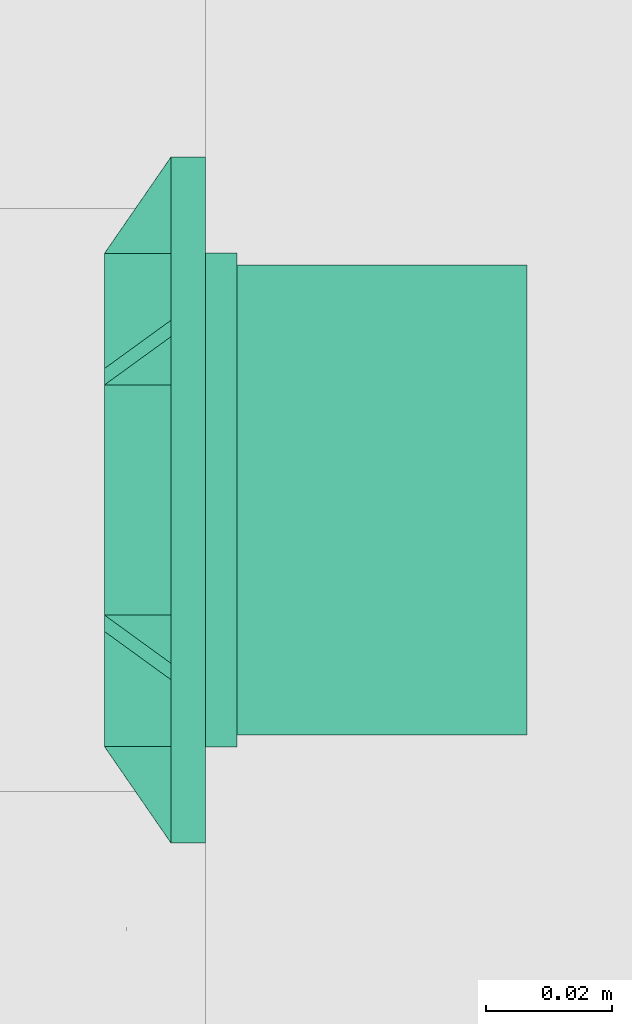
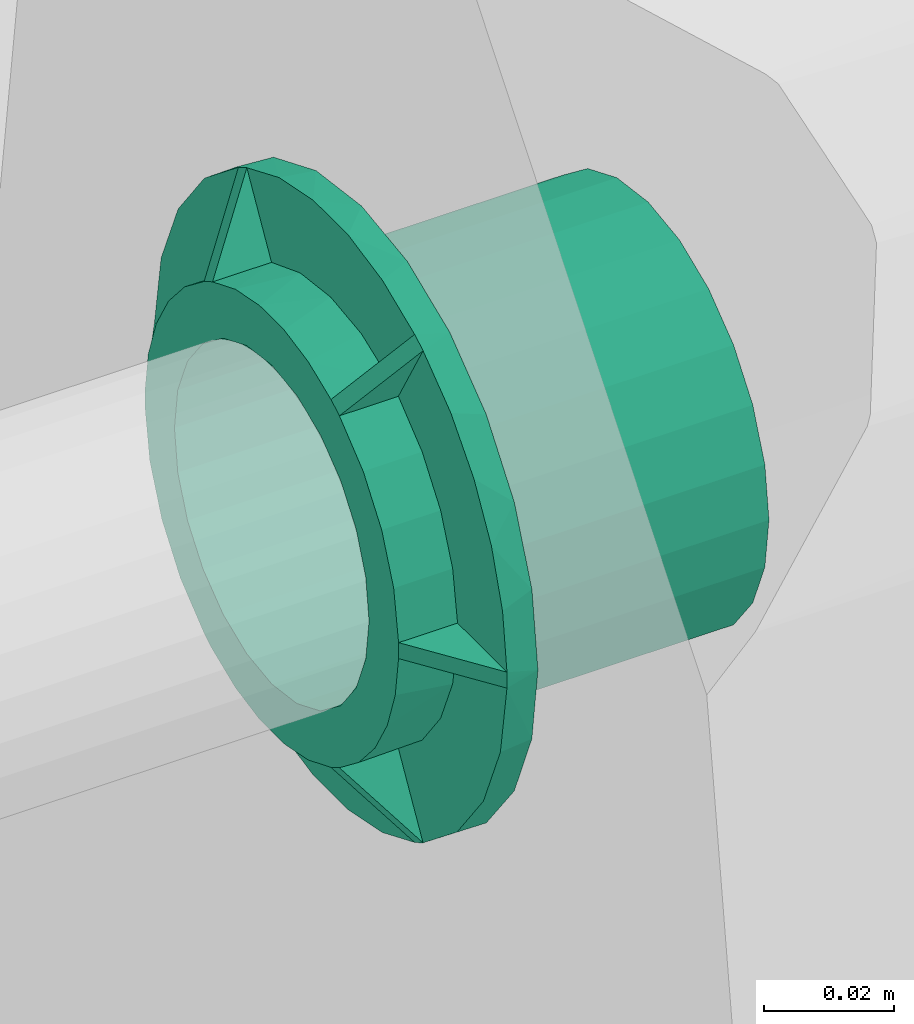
# One storey, part 49 of 166: 1 flow fitting.
"""IFC2X3 building model written with IfcOpenShell, lengths in metres."""

from ifc_helpers import new_model, entity, si_unit, converted_unit, direction, frame, origin, place, context, subcontext, project, spatial, faceted_brep, source, transform, mapped, material, type_object, type_shapes, element, save


model = new_model("IFC2X3")

# Units and contexts
model_context = context("Model", 3, precision=1e-05, world=origin(), true_north=direction((6.123233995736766e-17, 1.0)))
body_context = subcontext(model_context, "Body", "Model", "MODEL_VIEW")
ifc_project = project(units=[si_unit("LENGTHUNIT", "METRE"), converted_unit("PLANEANGLEUNIT", "DEGREE", entity("IfcPlaneAngleMeasure", 0.017453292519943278), si_unit("PLANEANGLEUNIT", "RADIAN"), dimensions=[0, 0, 0, 0, 0, 0, 0]), si_unit("AREAUNIT", "SQUARE_METRE")], contexts=[model_context])

# Site, building, storey
site_placement = place(None, origin())
site = spatial("IfcSite", under=ifc_project, at=site_placement, Name="Default", CompositionType="ELEMENT")
building_placement = place(site_placement, origin())
building = spatial("IfcBuilding", under=site, at=building_placement, Name="CASA DE ACOLHIDA PARA IDOSOS", CompositionType="ELEMENT")
storey_placement = place(building_placement, frame((0.0, 0.0, -1.7499999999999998)))
storey = spatial("IfcBuildingStorey", under=building, at=storey_placement, Name="IMPLANTAÇÃO DRENAGEM", CompositionType="ELEMENT", Elevation=-1.7499999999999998)

# Flow fitting
ifc_material = material(Name="Fortlev - PVC Marrom")
pipe_fitting_type = type_object("IfcPipeFittingType", Name="Adaptador Soldavel com Anel para CxDagua - Fortlev:Standard", PredefinedType="NOTDEFINED", material=ifc_material)
shared_shape = source(origin(), body_context, "Body", "Brep", [
    faceted_brep([(0.010500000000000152, -0.049522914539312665, 0.022392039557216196), (0.010500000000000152, -0.044138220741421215, 0.03171340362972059), (0.010500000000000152, -0.03702385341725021, 0.03978890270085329), (0.010500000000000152, -0.028463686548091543, 0.046300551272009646), (0.010500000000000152, -0.020847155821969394, 0.033108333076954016), (0.010500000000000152, -0.02819089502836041, 0.027130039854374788), (0.010500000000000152, -0.0338832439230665, 0.01956249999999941), (0.010500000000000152, -0.03759075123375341, 0.01084901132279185), (0.010500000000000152, -0.039096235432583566, 0.001500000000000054), (0.010500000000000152, -0.05432929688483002, 0.0015000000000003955), (0.010500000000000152, -0.05296506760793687, 0.01219114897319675), (0.010500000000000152, 0.03909623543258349, 0.0015000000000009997), (0.010500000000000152, 0.03759075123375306, 0.010849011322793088), (0.010500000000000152, 0.03388324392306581, 0.019562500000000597), (0.010500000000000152, 0.028190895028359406, 0.02713003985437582), (0.010500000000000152, 0.020847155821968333, 0.033108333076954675), (0.010500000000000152, 0.028463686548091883, 0.046300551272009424), (0.010500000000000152, 0.0389559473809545, 0.037899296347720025), (0.010500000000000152, 0.04706833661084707, 0.027175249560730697), (0.010500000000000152, 0.0522995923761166, 0.014787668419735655), (0.010500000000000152, 0.054329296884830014, 0.0015000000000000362), (0.010500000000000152, 0.01592792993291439, 0.05196367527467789), (0.010500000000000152, 0.025865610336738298, 0.04780055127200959), (0.010500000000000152, 0.01824907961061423, 0.034608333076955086), (0.010500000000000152, 0.009399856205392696, 0.037979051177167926), (0.010500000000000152, 0.0, 0.039125), (0.010500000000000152, -0.009399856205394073, 0.037979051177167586), (0.010500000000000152, -0.018249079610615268, 0.03460833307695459), (0.010500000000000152, -0.025865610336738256, 0.047800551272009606), (0.010500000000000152, -0.015940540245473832, 0.051959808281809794), (0.010500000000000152, -0.005390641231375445, 0.054082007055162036), (0.010500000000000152, 0.00537307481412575, 0.05408375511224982), (0.010500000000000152, 0.028190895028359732, -0.02713003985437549), (0.010500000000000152, 0.03388324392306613, -0.019562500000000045), (0.010500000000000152, 0.03759075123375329, -0.010849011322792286), (0.010500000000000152, 0.03909623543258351, -0.0014999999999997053), (0.010500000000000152, 0.054329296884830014, -0.0014999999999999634), (0.010500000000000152, 0.05296506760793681, -0.012191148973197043), (0.010500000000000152, 0.04952291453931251, -0.022392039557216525), (0.010500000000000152, 0.04413822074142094, -0.03171340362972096), (0.010500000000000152, 0.03702385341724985, -0.03978890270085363), (0.010500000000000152, 0.028463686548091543, -0.04630055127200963), (0.010500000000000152, 0.020847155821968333, -0.03310833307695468), (0.010500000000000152, -0.03895594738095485, -0.03789929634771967), (0.010500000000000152, -0.04706833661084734, -0.027175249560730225), (0.010500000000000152, -0.052299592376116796, -0.01478766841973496), (0.010500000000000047, -0.05432929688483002, -0.001499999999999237), (0.010500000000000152, -0.03909623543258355, -0.0014999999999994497), (0.010500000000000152, -0.03759075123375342, -0.01084901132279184), (0.010500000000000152, -0.03388324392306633, -0.0195624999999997), (0.010500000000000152, -0.028190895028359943, -0.027130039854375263), (0.010500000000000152, -0.020847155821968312, -0.0331083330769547), (0.010500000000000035, -0.028463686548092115, -0.04630055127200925), (0.010500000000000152, 0.005390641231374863, -0.05408200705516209), (0.010500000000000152, -0.005373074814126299, -0.05408375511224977), (0.010500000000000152, -0.015927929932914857, -0.05196367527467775), (0.010500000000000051, -0.025865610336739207, -0.04780055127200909), (0.0105, -0.01824907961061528, -0.03460833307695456), (0.010500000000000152, -0.009399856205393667, -0.03797905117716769), (0.010500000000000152, 0.0, -0.039125), (0.010500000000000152, 0.009399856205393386, -0.037979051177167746), (0.010500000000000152, 0.01824907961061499, -0.03460833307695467), (0.010500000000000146, 0.02586561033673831, -0.04780055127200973), (0.010500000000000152, 0.01594054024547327, -0.05195980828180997), (0.005249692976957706, -0.04671297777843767, -0.001499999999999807), (0.005250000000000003, -0.04673749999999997, 0.0), (0.0, -0.03911780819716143, -0.0007501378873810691), (0.0, -0.039096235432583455, -0.0014999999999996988), (0.010500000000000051, -0.054344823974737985, -0.0007500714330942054), (0.0, -0.03912499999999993, 0.0), (0.010500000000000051, -0.05435, 0.0), (0.0, 0.01122227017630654, -0.03748101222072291), (0.0, 0.018249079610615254, -0.03460833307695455), (0.0, 0.003788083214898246, -0.038941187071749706), (0.0, -0.003787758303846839, -0.0389412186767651), (0.0, -0.011221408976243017, -0.03748127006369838), (0.0, -0.018249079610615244, -0.03460833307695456), (0.0, 0.026847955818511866, 0.028459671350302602), (0.0, 0.020847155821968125, 0.033108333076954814), (0.0, 0.03183205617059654, 0.022748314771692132), (0.0, 0.03562128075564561, 0.01618301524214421), (0.0, 0.03807320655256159, 0.009010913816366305), (0.0, 0.039096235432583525, 0.0015000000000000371), (0.005249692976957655, -0.024655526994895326, -0.039704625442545), (0.0052496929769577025, -0.022057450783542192, -0.04120462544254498), (0.010500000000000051, -0.027175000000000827, -0.04706848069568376), (0.0, -0.019562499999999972, -0.033883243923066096), (0.0, -0.02084715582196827, -0.03310833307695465), (0.021000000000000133, 0.03779184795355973, -0.010126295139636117), (0.016000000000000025, 0.03779184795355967, -0.01012629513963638), (0.016000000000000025, 0.039124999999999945, 0.0), (0.021000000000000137, 0.03912499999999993, 0.0), (0.02100000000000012, 0.0338832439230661, -0.019562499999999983), (0.016000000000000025, 0.033883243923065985, -0.019562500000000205), (0.016000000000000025, 0.02766555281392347, -0.02766555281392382), (0.0210000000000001, 0.027665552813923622, -0.027665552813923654), (0.021000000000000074, 0.019562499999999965, -0.03388324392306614), (0.016000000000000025, 0.019562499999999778, -0.033883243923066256), (0.021000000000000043, 0.010126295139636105, -0.03779184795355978), (0.016000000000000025, 0.010126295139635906, -0.03779184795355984), (0.02100000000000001, 0.0, -0.039125), (0.016000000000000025, 0.0, -0.039125), (0.020999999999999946, -0.0195625, -0.0338832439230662), (0.016000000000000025, -0.019562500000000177, -0.03388324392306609), (0.01600000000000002, -0.010126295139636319, -0.037791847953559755), (0.020999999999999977, -0.010126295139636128, -0.03779184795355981), (0.02099999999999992, -0.027665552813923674, -0.027665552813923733), (0.016000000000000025, -0.027665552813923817, -0.027665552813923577), (0.016000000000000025, -0.033883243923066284, -0.019562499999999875), (0.0209999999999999, -0.03388324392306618, -0.019562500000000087), (0.020999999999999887, -0.03779184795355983, -0.010126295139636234), (0.016000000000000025, -0.03779184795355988, -0.010126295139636), (0.020999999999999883, -0.03912500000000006, 0.0), (0.016000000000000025, -0.03912500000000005, 0.0), (0.0, -0.02684795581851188, -0.02845967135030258), (0.0, -0.031832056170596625, -0.022748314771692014), (0.0, -0.0356212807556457, -0.01618301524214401), (0.0, -0.03807320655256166, -0.009010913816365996), (0.005249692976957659, 0.024655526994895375, 0.03970462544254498), (0.005249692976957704, 0.02205745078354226, 0.04120462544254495), (0.010500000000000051, 0.02717499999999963, 0.04706848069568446), (0.0, 0.019562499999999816, 0.033883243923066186), (0.0, 0.018249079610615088, 0.03460833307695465), (0.0, -0.011222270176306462, 0.037481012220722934), (0.0, -0.018249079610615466, 0.03460833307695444), (0.0, -0.003788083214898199, 0.038941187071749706), (0.0, 0.003787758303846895, 0.038941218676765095), (0.0, 0.011221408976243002, 0.037481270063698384), (0.0052496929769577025, 0.022057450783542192, -0.04120462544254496), (0.005249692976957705, 0.02465552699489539, -0.03970462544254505), (0.010500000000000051, 0.02717499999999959, -0.047068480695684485), (0.0, 0.01956249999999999, -0.03388324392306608), (0.0, 0.020847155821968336, -0.03310833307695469), (0.005249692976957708, 0.046712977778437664, 0.0014999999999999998), (0.005250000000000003, 0.04673749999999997, 0.0), (0.0, 0.03911780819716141, 0.0007501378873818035), (0.010500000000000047, 0.05434482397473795, 0.0007500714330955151), (0.0, 0.03912499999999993, 0.0), (0.010500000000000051, 0.05435, 0.0), (0.005249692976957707, -0.022057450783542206, 0.041204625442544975), (0.005249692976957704, -0.024655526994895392, 0.03970462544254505), (0.010500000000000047, -0.027175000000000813, 0.04706848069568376), (0.0, -0.01956250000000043, 0.03388324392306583), (0.0, -0.020847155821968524, 0.0331083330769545), (0.020999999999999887, -0.037791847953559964, 0.010126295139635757), (0.016000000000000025, -0.03779184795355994, 0.010126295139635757), (0.0209999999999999, -0.03388324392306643, 0.019562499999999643), (0.016000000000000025, -0.0338832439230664, 0.019562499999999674), (0.016000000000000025, -0.027665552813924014, 0.027665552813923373), (0.02099999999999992, -0.02766555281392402, 0.027665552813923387), (0.020999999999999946, -0.019562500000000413, 0.03388324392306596), (0.016000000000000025, -0.019562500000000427, 0.033883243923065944), (0.020999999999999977, -0.010126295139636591, 0.037791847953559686), (0.01600000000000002, -0.01012629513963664, 0.03779184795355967), (0.02100000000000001, 0.0, 0.039125), (0.016000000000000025, 0.0, 0.039125), (0.021000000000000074, 0.019562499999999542, 0.03388324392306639), (0.016000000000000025, 0.01956249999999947, 0.033883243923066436), (0.016000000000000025, 0.010126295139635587, 0.03779184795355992), (0.021000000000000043, 0.010126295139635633, 0.03779184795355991), (0.0210000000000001, 0.02766555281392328, 0.027665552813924), (0.016000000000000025, 0.027665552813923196, 0.02766555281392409), (0.016000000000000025, 0.033883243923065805, 0.019562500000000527), (0.02100000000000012, 0.03388324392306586, 0.01956250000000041), (0.021000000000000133, 0.0377918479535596, 0.010126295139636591), (0.016000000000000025, 0.037791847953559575, 0.010126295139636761), (0.016000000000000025, 0.02717500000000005, -0.047068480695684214), (0.016000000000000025, 0.03843125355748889, -0.03843125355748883), (0.016000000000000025, 0.014066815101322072, -0.052498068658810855), (0.016000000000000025, 0.047068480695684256, -0.027174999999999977), (0.016000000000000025, 0.05249806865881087, -0.014066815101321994), (0.016000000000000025, 0.05435, 0.0), (0.016000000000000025, 0.05249806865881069, 0.014066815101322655), (0.016000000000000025, 0.047068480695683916, 0.02717500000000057), (0.016000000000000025, 0.03843125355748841, 0.03843125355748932), (0.016000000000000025, 0.02717499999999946, 0.047068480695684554), (0.016000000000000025, 0.014066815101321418, 0.05249806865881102), (0.016000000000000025, 0.0, 0.05435), (0.016000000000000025, -0.014066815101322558, 0.052498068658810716), (0.016000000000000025, -0.027175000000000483, 0.04706848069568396), (0.016000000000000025, -0.03843125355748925, 0.03843125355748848), (0.016000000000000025, -0.04706848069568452, 0.02717499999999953), (0.016000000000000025, -0.05249806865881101, 0.014066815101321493), (0.016000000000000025, -0.05435, 0.0), (0.016000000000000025, -0.05249806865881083, -0.014066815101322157), (0.016000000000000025, -0.04706848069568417, -0.027175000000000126), (0.016000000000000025, -0.038431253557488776, -0.03843125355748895), (0.016000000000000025, -0.02717499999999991, -0.0470684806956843), (0.016000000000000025, -0.014066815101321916, -0.0524980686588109), (0.016000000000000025, 0.0, -0.05435), (0.010500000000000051, -0.054344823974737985, 0.0007500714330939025), (0.010500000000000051, 0.05434482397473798, -0.0007500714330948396), (0.0, -0.03909623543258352, 0.001500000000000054), (0.00524969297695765, -0.04671297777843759, 0.0015000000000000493), (0.0, 0.03909623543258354, -0.0014999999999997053), (0.0052496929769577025, 0.04671297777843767, -0.0014999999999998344), (0.06700000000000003, 0.018625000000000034, -0.03225944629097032), (0.06700000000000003, 0.026339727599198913, -0.026339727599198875), (0.06700000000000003, 0.014999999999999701, -0.02598076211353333), (0.06700000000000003, 0.007764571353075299, -0.028977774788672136), (0.06700000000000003, 0.009641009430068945, -0.03598073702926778), (0.06700000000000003, 0.021213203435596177, -0.021213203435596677), (0.06700000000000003, 0.032259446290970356, -0.01862499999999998), (0.06700000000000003, 0.02598076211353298, -0.015000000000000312), (0.06700000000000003, 0.028977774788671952, -0.007764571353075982), (0.06700000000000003, 0.035980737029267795, -0.00964100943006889), (0.06700000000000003, 0.03, 0.0), (0.06700000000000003, 0.03725, 0.0), (0.06700000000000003, 0.028977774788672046, 0.007764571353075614), (0.06700000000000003, 0.03598073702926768, 0.009641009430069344), (0.06700000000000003, 0.025980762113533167, 0.014999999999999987), (0.06700000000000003, 0.03225944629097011, 0.018625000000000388), (0.06700000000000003, 0.021213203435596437, 0.02121320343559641), (0.06700000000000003, 0.02633972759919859, 0.026339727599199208), (0.06700000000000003, 0.015000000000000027, 0.025980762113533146), (0.06700000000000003, 0.01862499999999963, 0.03225944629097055), (0.06700000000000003, 0.00776457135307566, 0.02897777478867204), (0.06700000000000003, 0.009641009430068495, 0.0359807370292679), (0.06700000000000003, 0.0, 0.03), (0.06700000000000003, 0.0, 0.03725), (0.06700000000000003, -0.007764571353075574, 0.028977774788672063), (0.06700000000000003, -0.00964100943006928, 0.03598073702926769), (0.06700000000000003, -0.01499999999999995, 0.02598076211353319), (0.06700000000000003, -0.01862500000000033, 0.03225944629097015), (0.06700000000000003, -0.021213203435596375, 0.021213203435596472), (0.06700000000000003, -0.02633972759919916, 0.026339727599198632), (0.06700000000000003, -0.025980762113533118, 0.015000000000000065), (0.06700000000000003, -0.032259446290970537, 0.018624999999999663), (0.06700000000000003, -0.03598073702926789, 0.009641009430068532), (0.06700000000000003, -0.028977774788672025, 0.007764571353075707), (0.06700000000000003, -0.03725, 0.0), (0.06700000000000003, -0.03, 0.0), (0.06700000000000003, -0.03598073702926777, -0.009641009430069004), (0.06700000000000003, -0.028977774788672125, -0.007764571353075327), (0.06700000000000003, -0.032259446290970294, -0.018625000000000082), (0.06700000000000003, -0.02598076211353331, -0.014999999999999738), (0.06700000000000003, -0.026339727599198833, -0.026339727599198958), (0.06700000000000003, -0.021213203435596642, -0.021213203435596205), (0.06700000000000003, -0.018624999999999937, -0.03225944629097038), (0.06700000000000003, -0.015000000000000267, -0.025980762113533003), (0.06700000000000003, -0.009641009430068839, -0.03598073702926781), (0.06700000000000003, -0.007764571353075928, -0.028977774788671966), (0.06700000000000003, 0.0, -0.03725), (0.06700000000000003, 0.0, -0.03), (0.020999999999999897, -0.03725, 0.0), (0.0209999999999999, -0.035980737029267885, 0.00964100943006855), (0.020999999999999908, -0.032259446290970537, 0.018624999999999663), (0.020999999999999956, -0.018625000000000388, 0.03225944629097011), (0.02099999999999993, -0.02633972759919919, 0.0263397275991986), (0.020999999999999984, -0.009641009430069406, 0.03598073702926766), (0.021000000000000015, 0.0, 0.03725), (0.021000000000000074, 0.018624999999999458, 0.032259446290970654), (0.021000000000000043, 0.009641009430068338, 0.03598073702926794), (0.0210000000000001, 0.026339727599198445, 0.026339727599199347), (0.02100000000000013, 0.035980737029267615, 0.00964100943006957), (0.02100000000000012, 0.032259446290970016, 0.01862500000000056), (0.021000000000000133, 0.03725, 0.0), (0.02100000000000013, 0.03598073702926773, -0.009641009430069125), (0.02100000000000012, 0.03225944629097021, -0.018625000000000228), (0.021000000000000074, 0.018624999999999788, -0.03225944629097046), (0.0210000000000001, 0.02633972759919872, -0.026339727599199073), (0.021000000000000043, 0.009641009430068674, -0.03598073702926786), (0.021000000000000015, 0.0, -0.03725), (0.020999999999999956, -0.018625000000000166, -0.032259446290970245), (0.020999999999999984, -0.009641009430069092, -0.03598073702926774), (0.02099999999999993, -0.02633972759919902, -0.02633972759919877), (0.0209999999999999, -0.035980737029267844, -0.009641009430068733), (0.020999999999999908, -0.032259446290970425, -0.018624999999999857), (0.01600000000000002, -0.028977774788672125, -0.007764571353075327), (0.0, -0.028977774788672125, -0.007764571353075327), (0.0, -0.03, 0.0), (0.010500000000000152, -0.030000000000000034, 0.0), (0.01600000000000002, -0.03, 0.0), (0.020999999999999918, -0.03, 0.0), (0.01600000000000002, -0.02598076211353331, -0.014999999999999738), (0.0, -0.025980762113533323, -0.014999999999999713), (0.01600000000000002, -0.007764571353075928, -0.028977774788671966), (0.0, -0.007764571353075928, -0.028977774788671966), (0.0, -0.015000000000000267, -0.025980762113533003), (0.01600000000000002, -0.015000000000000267, -0.025980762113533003), (0.0, -0.021213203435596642, -0.021213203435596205), (0.01600000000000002, -0.021213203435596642, -0.021213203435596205), (0.01600000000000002, 0.0, -0.03), (0.0, 0.0, -0.03), (0.01600000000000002, 0.007764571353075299, -0.028977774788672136), (0.01600000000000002, 0.014999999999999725, -0.02598076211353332), (0.0, 0.014999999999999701, -0.02598076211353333), (0.0, 0.007764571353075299, -0.028977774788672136), (0.01600000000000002, 0.021213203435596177, -0.021213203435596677), (0.0, 0.021213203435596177, -0.021213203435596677), (0.021000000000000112, 0.03, 0.0), (0.01600000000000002, 0.03, 0.0), (0.010500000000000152, 0.029999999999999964, 0.0), (0.0, 0.03, 0.0), (0.0, 0.028977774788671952, -0.007764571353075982), (0.01600000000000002, 0.028977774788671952, -0.007764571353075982), (0.01600000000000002, 0.02598076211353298, -0.015000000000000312), (0.0, 0.02598076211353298, -0.015000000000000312), (0.01600000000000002, 0.028977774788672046, 0.007764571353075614), (0.0, 0.028977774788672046, 0.007764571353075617), (0.01600000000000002, 0.025980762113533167, 0.014999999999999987), (0.0, 0.025980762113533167, 0.014999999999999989), (0.01600000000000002, 0.00776457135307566, 0.02897777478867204), (0.0, 0.00776457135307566, 0.02897777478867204), (0.0, 0.015000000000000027, 0.025980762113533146), (0.01600000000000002, 0.015000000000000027, 0.025980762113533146), (0.01600000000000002, 0.021213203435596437, 0.02121320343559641), (0.0, 0.021213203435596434, 0.021213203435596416), (0.01600000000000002, 0.0, 0.03), (0.0, 0.0, 0.03), (0.01600000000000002, -0.0077645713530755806, 0.02897777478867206), (0.01600000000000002, -0.01499999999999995, 0.02598076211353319), (0.0, -0.01499999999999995, 0.02598076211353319), (0.0, -0.007764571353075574, 0.028977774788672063), (0.01600000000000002, -0.021213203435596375, 0.021213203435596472), (0.0, -0.021213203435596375, 0.021213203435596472), (0.0, -0.028977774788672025, 0.007764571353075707), (0.01600000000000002, -0.028977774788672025, 0.007764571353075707), (0.01600000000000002, -0.025980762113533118, 0.015000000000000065), (0.0, -0.025980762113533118, 0.015000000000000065), (0.0, -0.03759436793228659, 0.010836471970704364), (0.0, -0.033887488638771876, 0.01955514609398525), (0.0, -0.02819358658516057, 0.02712724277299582), (0.0, 0.03759436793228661, -0.010836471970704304), (0.0, 0.0338874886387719, -0.01955514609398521), (0.0, 0.02819358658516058, -0.027127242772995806), (0.0, 0.03911780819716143, -0.0007501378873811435), (0.0, -0.03911780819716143, 0.0007501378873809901)], [[[0, 1, 2, 3, 4, 5, 6, 7, 8, 9, 10]], [[11, 12, 13, 14, 15, 16, 17, 18, 19, 20]], [[21, 22, 23, 24, 25, 26, 27, 28, 29, 30, 31]], [[32, 33, 34, 35, 36, 37, 38, 39, 40, 41, 42]], [[43, 44, 45, 46, 47, 48, 49, 50, 51, 52]], [[53, 54, 55, 56, 57, 58, 59, 60, 61, 62, 63]], [[64, 65, 66]], [[66, 67, 64]], [[68, 64, 46]], [[66, 65, 69]], [[64, 68, 65]], [[65, 68, 70]], [[61, 60, 71]], [[61, 71, 72]], [[71, 60, 73]], [[60, 59, 73]], [[74, 59, 58]], [[75, 58, 57]], [[58, 75, 74]], [[75, 57, 76]], [[59, 74, 73]], [[15, 14, 77]], [[15, 77, 78]], [[77, 14, 79]], [[14, 13, 79]], [[80, 13, 12]], [[81, 12, 11]], [[12, 81, 80]], [[81, 11, 82]], [[13, 80, 79]], [[83, 84, 85]], [[84, 56, 85]], [[86, 76, 84]], [[83, 87, 86]], [[83, 85, 52]], [[86, 84, 83]], [[88, 89, 90, 91]], [[92, 93, 89, 88]], [[94, 95, 96, 97]], [[92, 95, 94, 93]], [[97, 96, 98, 99]], [[100, 101, 99, 98]], [[102, 103, 104, 105]], [[106, 107, 103, 102]], [[108, 109, 110, 111]], [[106, 109, 108, 107]], [[111, 110, 112, 113]], [[104, 101, 100, 105]], [[51, 50, 114]], [[51, 114, 87]], [[114, 50, 115]], [[50, 49, 115]], [[116, 49, 48]], [[117, 48, 47]], [[48, 117, 116]], [[117, 47, 67]], [[49, 116, 115]], [[118, 119, 120]], [[119, 22, 120]], [[121, 122, 119]], [[118, 78, 121]], [[118, 120, 16]], [[121, 119, 118]], [[27, 26, 123]], [[27, 123, 124]], [[123, 26, 125]], [[26, 25, 125]], [[126, 25, 24]], [[127, 24, 23]], [[24, 127, 126]], [[127, 23, 122]], [[25, 126, 125]], [[128, 129, 130]], [[129, 41, 130]], [[131, 132, 129]], [[128, 72, 131]], [[128, 130, 62]], [[131, 129, 128]], [[133, 134, 135]], [[135, 82, 133]], [[136, 133, 20]], [[135, 134, 137]], [[133, 136, 134]], [[134, 136, 138]], [[139, 140, 141]], [[140, 3, 141]], [[142, 143, 140]], [[139, 124, 142]], [[139, 141, 28]], [[142, 140, 139]], [[144, 145, 113, 112]], [[146, 147, 145, 144]], [[148, 149, 150, 151]], [[146, 149, 148, 147]], [[151, 150, 152, 153]], [[154, 155, 153, 152]], [[156, 157, 158, 159]], [[160, 161, 157, 156]], [[162, 163, 164, 165]], [[160, 163, 162, 161]], [[165, 164, 91, 90]], [[158, 155, 154, 159]], [[166, 167, 97]], [[166, 97, 99]], [[99, 168, 166]], [[97, 167, 94]], [[169, 94, 167]], [[93, 94, 169]], [[89, 93, 169]], [[89, 169, 170]], [[89, 170, 90]], [[90, 170, 171]], [[165, 90, 171]], [[165, 171, 172]], [[162, 165, 172]], [[162, 172, 173]], [[161, 162, 173]], [[173, 174, 161]], [[174, 157, 161]], [[157, 174, 175]], [[157, 175, 158]], [[176, 158, 175]], [[158, 176, 155]], [[155, 176, 177]], [[177, 153, 155]], [[153, 177, 178]], [[153, 178, 151]], [[179, 151, 178]], [[179, 148, 151]], [[179, 180, 148]], [[147, 148, 180]], [[181, 147, 180]], [[182, 147, 181]], [[145, 147, 182]], [[145, 182, 183]], [[183, 113, 145]], [[184, 113, 183]], [[184, 111, 113]], [[111, 184, 185]], [[108, 111, 185]], [[108, 185, 186]], [[108, 186, 107]], [[186, 187, 107]], [[107, 187, 103]], [[103, 187, 188]], [[188, 104, 103]], [[189, 104, 188]], [[168, 101, 189]], [[104, 189, 101]], [[168, 99, 101]], [[182, 10, 183]], [[0, 182, 181]], [[181, 180, 1]], [[179, 178, 29]], [[179, 29, 28]], [[29, 178, 30]], [[178, 177, 30]], [[180, 179, 2]], [[141, 179, 28]], [[10, 9, 183]], [[70, 183, 190]], [[190, 183, 9]], [[3, 2, 179]], [[1, 0, 181]], [[180, 2, 1]], [[0, 10, 182]], [[3, 179, 141]], [[176, 31, 177]], [[21, 176, 175]], [[175, 174, 16]], [[19, 173, 172]], [[136, 171, 138]], [[172, 171, 20]], [[174, 173, 17]], [[171, 136, 20]], [[120, 22, 175]], [[22, 21, 175]], [[21, 31, 176]], [[19, 18, 173]], [[17, 16, 174]], [[173, 18, 17]], [[16, 120, 175]], [[172, 20, 19]], [[177, 31, 30]], [[170, 37, 171]], [[38, 170, 169]], [[169, 167, 39]], [[166, 168, 63]], [[166, 63, 62]], [[63, 168, 53]], [[168, 189, 53]], [[167, 166, 40]], [[130, 166, 62]], [[37, 36, 171]], [[191, 171, 36]], [[171, 191, 138]], [[41, 40, 166]], [[39, 38, 169]], [[167, 40, 39]], [[38, 37, 170]], [[166, 130, 41]], [[188, 54, 189]], [[55, 188, 187]], [[187, 186, 52]], [[45, 185, 184]], [[68, 183, 70]], [[184, 183, 46]], [[186, 185, 43]], [[183, 68, 46]], [[85, 56, 187]], [[56, 55, 187]], [[55, 54, 188]], [[45, 44, 185]], [[43, 52, 186]], [[185, 44, 43]], [[52, 85, 187]], [[184, 46, 45]], [[189, 54, 53]], [[23, 22, 119, 122]], [[52, 51, 87, 83]], [[16, 15, 78, 118]], [[57, 56, 84, 76]], [[4, 3, 140, 143]], [[62, 61, 72, 128]], [[28, 27, 124, 139]], [[42, 41, 129, 132]], [[11, 20, 133, 82]], [[9, 8, 192, 193]], [[36, 35, 194, 195]], [[47, 46, 64, 67]], [[196, 197, 198]], [[196, 198, 199]], [[199, 200, 196]], [[198, 197, 201]], [[202, 201, 197]], [[203, 201, 202]], [[204, 203, 202]], [[204, 202, 205]], [[204, 205, 206]], [[206, 205, 207]], [[208, 206, 207]], [[208, 207, 209]], [[210, 208, 209]], [[210, 209, 211]], [[212, 210, 211]], [[211, 213, 212]], [[213, 214, 212]], [[214, 213, 215]], [[214, 215, 216]], [[217, 216, 215]], [[216, 217, 218]], [[218, 217, 219]], [[219, 220, 218]], [[220, 219, 221]], [[220, 221, 222]], [[223, 222, 221]], [[223, 224, 222]], [[223, 225, 224]], [[226, 224, 225]], [[227, 226, 225]], [[228, 226, 227]], [[229, 226, 228]], [[229, 228, 230]], [[230, 231, 229]], [[232, 231, 230]], [[232, 233, 231]], [[233, 232, 234]], [[235, 233, 234]], [[235, 234, 236]], [[235, 236, 237]], [[236, 238, 237]], [[237, 238, 239]], [[239, 238, 240]], [[240, 241, 239]], [[242, 241, 240]], [[200, 243, 242]], [[242, 243, 241]], [[200, 199, 243]], [[244, 230, 228, 245]], [[245, 228, 227, 246]], [[247, 248, 225, 223]], [[249, 247, 223, 221]], [[227, 225, 248, 246]], [[221, 219, 250, 249]], [[251, 252, 217, 215]], [[213, 253, 251, 215]], [[254, 255, 211, 209]], [[213, 211, 255, 253]], [[256, 254, 209, 207]], [[217, 252, 250, 219]], [[205, 257, 256, 207]], [[202, 258, 257, 205]], [[197, 196, 259, 260]], [[202, 197, 260, 258]], [[261, 259, 196, 200]], [[261, 200, 242, 262]], [[263, 264, 240, 238]], [[236, 265, 263, 238]], [[266, 267, 234, 232]], [[236, 234, 267, 265]], [[244, 266, 232, 230]], [[240, 264, 262, 242]], [[268, 269, 270, 271, 272, 273, 231, 233]], [[268, 233, 235, 274, 275, 269]], [[239, 241, 276, 277, 278, 279]], [[279, 278, 280, 281, 237, 239]], [[281, 280, 275, 274, 235, 237]], [[282, 283, 277, 276, 241, 243]], [[284, 199, 198, 285, 286, 287]], [[285, 198, 201, 288, 289, 286]], [[290, 291, 292, 293, 294, 295, 204, 206]], [[201, 203, 296, 297, 289, 288]], [[296, 203, 204, 295, 294, 297]], [[243, 199, 284, 287, 283, 282]], [[291, 290, 206, 208, 298, 299, 293, 292]], [[298, 208, 210, 300, 301, 299]], [[216, 302, 303, 304, 305, 214]], [[212, 306, 307, 301, 300, 210]], [[216, 218, 308, 309, 303, 302]], [[212, 214, 305, 304, 307, 306]], [[310, 220, 222, 311, 312, 313]], [[311, 222, 224, 314, 315, 312]], [[273, 272, 271, 270, 316, 317, 229, 231]], [[224, 226, 318, 319, 315, 314]], [[318, 226, 229, 317, 316, 319]], [[218, 220, 310, 313, 309, 308]], [[96, 95, 259]], [[96, 259, 261]], [[261, 98, 96]], [[259, 95, 260]], [[92, 260, 95]], [[260, 92, 258]], [[258, 92, 257]], [[88, 257, 92]], [[88, 256, 257]], [[256, 88, 91]], [[254, 256, 91]], [[91, 164, 254]], [[254, 164, 255]], [[163, 255, 164]], [[255, 163, 253]], [[253, 163, 160]], [[251, 253, 160]], [[160, 156, 251]], [[251, 156, 252]], [[159, 252, 156]], [[252, 159, 250]], [[250, 159, 154]], [[250, 154, 249]], [[249, 154, 152]], [[249, 152, 247]], [[150, 247, 152]], [[248, 247, 150]], [[248, 150, 149]], [[149, 246, 248]], [[146, 246, 149]], [[246, 146, 144]], [[144, 245, 246]], [[112, 245, 144]], [[112, 244, 245]], [[110, 244, 112]], [[110, 266, 244]], [[266, 110, 109]], [[109, 267, 266]], [[267, 109, 106]], [[267, 106, 265]], [[106, 102, 265]], [[263, 265, 102]], [[263, 102, 105]], [[105, 264, 263]], [[100, 264, 105]], [[98, 262, 100]], [[100, 262, 264]], [[98, 261, 262]], [[8, 7, 320]], [[8, 320, 192]], [[320, 7, 321]], [[7, 6, 321]], [[6, 5, 322]], [[5, 143, 322]], [[143, 5, 4]], [[6, 322, 321]], [[35, 34, 323]], [[35, 323, 194]], [[323, 34, 324]], [[34, 33, 324]], [[33, 32, 325]], [[32, 132, 325]], [[132, 32, 42]], [[33, 325, 324]], [[134, 195, 326]], [[138, 191, 134]], [[195, 194, 326]], [[134, 326, 137]], [[195, 191, 36]], [[195, 134, 191]], [[65, 193, 327]], [[65, 327, 69]], [[193, 192, 327]], [[70, 190, 65]], [[193, 190, 9]], [[193, 65, 190]], [[72, 287, 286]], [[131, 72, 286]], [[287, 72, 71]], [[287, 71, 73]], [[73, 283, 287]], [[74, 283, 73]], [[277, 283, 74]], [[277, 74, 75]], [[76, 277, 75]], [[278, 277, 76]], [[86, 278, 76]], [[278, 86, 87]], [[280, 278, 87]], [[87, 114, 280]], [[114, 115, 280]], [[115, 275, 280]], [[116, 275, 115]], [[116, 269, 275]], [[116, 117, 269]], [[269, 117, 67]], [[67, 270, 269]], [[67, 66, 270]], [[66, 69, 270]], [[69, 327, 270]], [[192, 270, 327]], [[270, 192, 316]], [[316, 192, 320]], [[319, 316, 320]], [[321, 319, 320]], [[321, 322, 319]], [[315, 319, 322]], [[322, 143, 315]], [[312, 315, 143]], [[143, 142, 312]], [[124, 312, 142]], [[124, 313, 312]], [[124, 123, 313]], [[313, 123, 125]], [[125, 309, 313]], [[125, 126, 309]], [[309, 126, 303]], [[303, 126, 127]], [[122, 303, 127]], [[122, 304, 303]], [[122, 121, 304]], [[78, 304, 121]], [[307, 304, 78]], [[307, 78, 77]], [[79, 307, 77]], [[307, 79, 301]], [[80, 301, 79]], [[80, 299, 301]], [[80, 81, 299]], [[81, 82, 299]], [[299, 82, 293]], [[293, 82, 135]], [[135, 137, 293]], [[293, 137, 326]], [[194, 293, 326]], [[194, 294, 293]], [[294, 194, 323]], [[323, 297, 294]], [[323, 324, 297]], [[297, 324, 325]], [[289, 297, 325]], [[289, 325, 132]], [[286, 132, 131]], [[289, 132, 286]]]),
])
type_shapes(pipe_fitting_type, [shared_shape])
flow_fitting_placement = place(storey_placement, frame((-64.27991005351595, -2.2373781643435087, 2.615000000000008)))
element("IfcFlowFitting", 1, at=flow_fitting_placement, inside=storey, type_object=pipe_fitting_type, material=ifc_material, Name="Adaptador Soldavel com Anel para CxDagua - Fortlev:Standard", ObjectType="Adaptador Soldavel com Anel para CxDagua - Fortlev:Standard", context=body_context, shape_type="MappedRepresentation", body=[
    mapped(shared_shape, transform((0.0, 0.0, 0.0), scale=1.0)),
])

save(model, "model.ifc")
